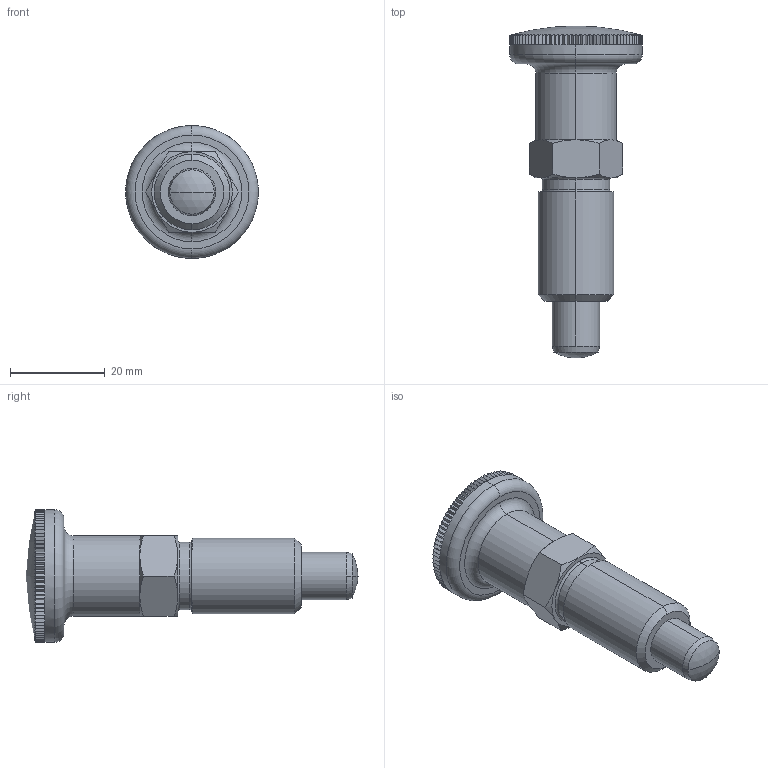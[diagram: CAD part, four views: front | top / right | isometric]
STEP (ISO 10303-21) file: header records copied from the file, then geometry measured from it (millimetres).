
FILE_DESCRIPTION (( 'STEP AP203' ), '1' );
FILE_NAME ('32690.W0235.step', '2011-03-25T12:25:30', ( 'Wixroyd' ), ( 'Wixroyd' ), 'SwSTEP 2.0', 'SolidWorks 2009', '' );
FILE_SCHEMA (( 'CONFIG_CONTROL_DESIGN' ));
Length unit declared in the file: millimetre
Products named in the file (4): Part1_3269.W235; Part2_3269.W235; Part3_3269.W235; 32690.W0235
Assembly tree (3 placements, depth 2):
  32690.W0235
    Part1_3269.W235
    Part2_3269.W235
    Part3_3269.W235
Bounding box: 28 x 70 x 28 mm (x, y, z)
Volume: 14678.6 mm3; surface area: 9103.5 mm2
Topology: 3 solids, 3 shells, 354 faces, 814 edges, 472 vertices
Faces by surface type: plane 305, cylinder 21, cone 16, torus 8, sphere 4
Entity records: 10372 total; most frequent: DIRECTION 1870, CARTESIAN_POINT 1786, ORIENTED_EDGE 1628, EDGE_CURVE 814, AXIS2_PLACEMENT_3D 720, VERTEX_POINT 472, VECTOR 430, LINE 430
